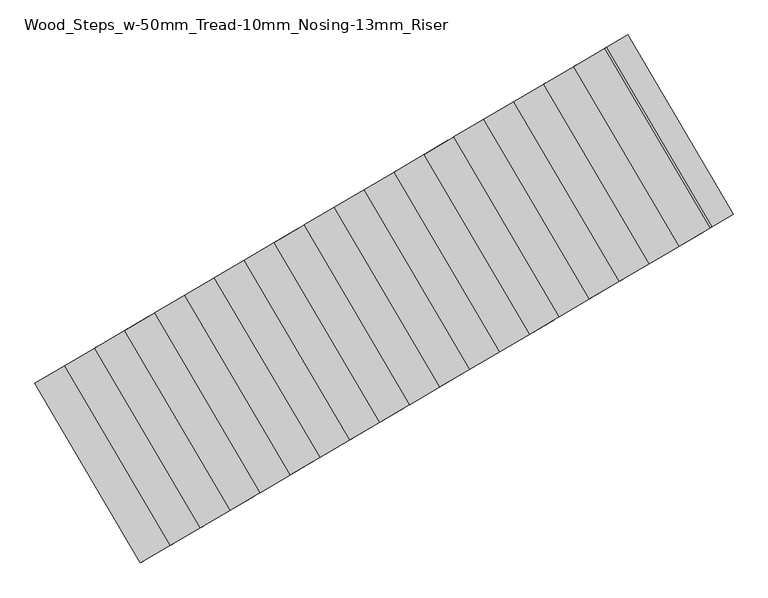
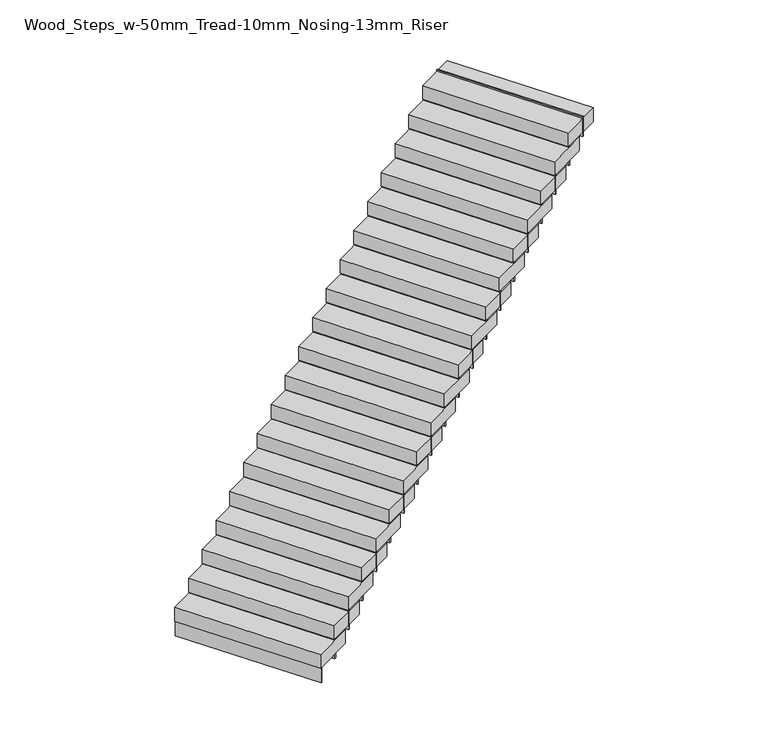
"""IFC4 building model written with IfcOpenShell, lengths in millimetres: stair flight geometry, Wood_Steps_w-50mm_Tread-10mm_Nosing-13mm_Riser."""

from ifc_helpers import new_model, si_unit, frame, origin, origin_with_axes, place, context, project, spatial, polyline, outline, extrude, source, transform, mapped, element, save


def wood_steps_w_50mm_tread_10mm_nosing_13mm_riser_9b9480e7(model_context):
    return source(origin(), model_context, "Body", "SweptSolid", [
        extrude(outline(polyline([(7063.7686647, 22146.0352069), (6675.819467, 21918.0101643), (5915.735992, 23211.1741566), (6303.6851897, 23439.1991991), (7063.7686647, 22146.0352069)])), frame((0.0, 0.0, 165.0), z_axis=(0.0, 0.0, 1.0), x_axis=(1.0, 0.0, 0.0)), (0.0, 0.0, 1.0), 150.0),
        extrude(outline(polyline([(6695.2169269, 21929.4114165), (6684.4405603, 21923.0773875), (5924.3570852, 23216.2413798), (5935.1334519, 23222.5754088), (6695.2169269, 21929.4114165)])), origin_with_axes(), (0.0, 0.0, 1.0), 165.0),
        extrude(outline(polyline([(6910.7442589, 22056.0919956), (6899.9678923, 22049.7579667), (6139.8844173, 23342.921959), (6150.6607839, 23349.2559879), (6910.7442589, 22056.0919956)])), frame((0.0, 0.0, 115.0), z_axis=(0.0, 0.0, 1.0), x_axis=(1.0, 0.0, 0.0)), (0.0, 0.0, 1.0), 215.0),
        extrude(outline(polyline([(7279.2959968, 22272.715786), (6891.3467991, 22044.6907435), (6131.263324, 23337.8547358), (6519.2125217, 23565.8797783), (7279.2959968, 22272.715786)])), frame((0.0, 0.0, 330.0), z_axis=(0.0, 0.0, 1.0), x_axis=(1.0, 0.0, 0.0)), (0.0, 0.0, 1.0), 150.0),
        extrude(outline(polyline([(7126.271591, 22182.7725748), (7115.4952244, 22176.4385459), (6355.4117493, 23469.6025381), (6366.1881159, 23475.9365671), (7126.271591, 22182.7725748)])), frame((0.0, 0.0, 280.0), z_axis=(0.0, 0.0, 1.0), x_axis=(1.0, 0.0, 0.0)), (0.0, 0.0, 1.0), 215.0),
        extrude(outline(polyline([(7494.8233288, 22399.3963652), (7106.8741311, 22171.3713227), (6346.7906561, 23464.535315), (6734.7398537, 23692.5603575), (7494.8233288, 22399.3963652)])), frame((0.0, 0.0, 495.0), z_axis=(0.0, 0.0, 1.0), x_axis=(1.0, 0.0, 0.0)), (0.0, 0.0, 1.0), 150.0),
        extrude(outline(polyline([(7341.798923, 22309.453154), (7331.0225564, 22303.119125), (6570.9390814, 23596.2831173), (6581.715448, 23602.6171463), (7341.798923, 22309.453154)])), frame((0.0, 0.0, 445.0), z_axis=(0.0, 0.0, 1.0), x_axis=(1.0, 0.0, 0.0)), (0.0, 0.0, 1.0), 215.0),
        extrude(outline(polyline([(7710.3506608, 22526.0769444), (7322.4014632, 22298.0519019), (6562.3179881, 23591.2158942), (6950.2671858, 23819.2409367), (7710.3506608, 22526.0769444)])), frame((0.0, 0.0, 660.0), z_axis=(0.0, 0.0, 1.0), x_axis=(1.0, 0.0, 0.0)), (0.0, 0.0, 1.0), 150.0),
        extrude(outline(polyline([(7557.3262551, 22436.1337332), (7546.5498885, 22429.7997042), (6786.4664134, 23722.9636965), (6797.24278, 23729.2977255), (7557.3262551, 22436.1337332)])), frame((0.0, 0.0, 610.0), z_axis=(0.0, 0.0, 1.0), x_axis=(1.0, 0.0, 0.0)), (0.0, 0.0, 1.0), 215.0),
        extrude(outline(polyline([(7925.8779929, 22652.7575236), (7537.9287952, 22424.732481), (6777.8453202, 23717.8964733), (7165.7945178, 23945.9215158), (7925.8779929, 22652.7575236)])), frame((0.0, 0.0, 825.0), z_axis=(0.0, 0.0, 1.0), x_axis=(1.0, 0.0, 0.0)), (0.0, 0.0, 1.0), 150.0),
        extrude(outline(polyline([(7772.8535871, 22562.8143123), (7762.0772205, 22556.4802834), (7001.9937455, 23849.6442757), (7012.7701121, 23855.9783046), (7772.8535871, 22562.8143123)])), frame((0.0, 0.0, 775.0), z_axis=(0.0, 0.0, 1.0), x_axis=(1.0, 0.0, 0.0)), (0.0, 0.0, 1.0), 215.0),
        extrude(outline(polyline([(8141.4053249, 22779.4381027), (7753.4561273, 22551.4130602), (6993.3726522, 23844.5770525), (7381.3218499, 24072.602095), (8141.4053249, 22779.4381027)])), frame((0.0, 0.0, 990.0), z_axis=(0.0, 0.0, 1.0), x_axis=(1.0, 0.0, 0.0)), (0.0, 0.0, 1.0), 150.0),
        extrude(outline(polyline([(7988.3809192, 22689.4948915), (7977.6045526, 22683.1608626), (7217.5210775, 23976.3248548), (7228.2974441, 23982.6588838), (7988.3809192, 22689.4948915)])), frame((0.0, 0.0, 940.0), z_axis=(0.0, 0.0, 1.0), x_axis=(1.0, 0.0, 0.0)), (0.0, 0.0, 1.0), 215.0),
        extrude(outline(polyline([(8356.932657, 22906.1186819), (7968.9834593, 22678.0936394), (7208.8999843, 23971.2576317), (7596.8491819, 24199.2826742), (8356.932657, 22906.1186819)])), frame((0.0, 0.0, 1155.0), z_axis=(0.0, 0.0, 1.0), x_axis=(1.0, 0.0, 0.0)), (0.0, 0.0, 1.0), 150.0),
        extrude(outline(polyline([(8203.9082512, 22816.1754707), (8193.1318846, 22809.8414417), (7433.0484096, 24103.005434), (7443.8247762, 24109.339463), (8203.9082512, 22816.1754707)])), frame((0.0, 0.0, 1105.0), z_axis=(0.0, 0.0, 1.0), x_axis=(1.0, 0.0, 0.0)), (0.0, 0.0, 1.0), 215.0),
        extrude(outline(polyline([(8572.459989, 23032.7992611), (8184.5107914, 22804.7742186), (7424.4273163, 24097.9382109), (7812.376514, 24325.9632534), (8572.459989, 23032.7992611)])), frame((0.0, 0.0, 1320.0), z_axis=(0.0, 0.0, 1.0), x_axis=(1.0, 0.0, 0.0)), (0.0, 0.0, 1.0), 150.0),
        extrude(outline(polyline([(8419.4355833, 22942.8560499), (8408.6592167, 22936.5220209), (7648.5757416, 24229.6860132), (7659.3521082, 24236.0200422), (8419.4355833, 22942.8560499)])), frame((0.0, 0.0, 1270.0), z_axis=(0.0, 0.0, 1.0), x_axis=(1.0, 0.0, 0.0)), (0.0, 0.0, 1.0), 215.0),
        extrude(outline(polyline([(8787.9873211, 23159.4798403), (8400.0381234, 22931.4547977), (7639.9546484, 24224.61879), (8027.903846, 24452.6438325), (8787.9873211, 23159.4798403)])), frame((0.0, 0.0, 1485.0), z_axis=(0.0, 0.0, 1.0), x_axis=(1.0, 0.0, 0.0)), (0.0, 0.0, 1.0), 150.0),
        extrude(outline(polyline([(8634.9629153, 23069.536629), (8624.1865487, 23063.2026001), (7864.1030737, 24356.3665924), (7874.8794403, 24362.7006213), (8634.9629153, 23069.536629)])), frame((0.0, 0.0, 1435.0), z_axis=(0.0, 0.0, 1.0), x_axis=(1.0, 0.0, 0.0)), (0.0, 0.0, 1.0), 215.0),
        extrude(outline(polyline([(9003.5146531, 23286.1604194), (8615.5654555, 23058.1353769), (7855.4819804, 24351.2993692), (8243.4311781, 24579.3244117), (9003.5146531, 23286.1604194)])), frame((0.0, 0.0, 1650.0), z_axis=(0.0, 0.0, 1.0), x_axis=(1.0, 0.0, 0.0)), (0.0, 0.0, 1.0), 150.0),
        extrude(outline(polyline([(8850.4902474, 23196.2172082), (8839.7138808, 23189.8831793), (8079.6304057, 24483.0471715), (8090.4067723, 24489.3812005), (8850.4902474, 23196.2172082)])), frame((0.0, 0.0, 1600.0), z_axis=(0.0, 0.0, 1.0), x_axis=(1.0, 0.0, 0.0)), (0.0, 0.0, 1.0), 215.0),
        extrude(outline(polyline([(9219.0419852, 23412.8409986), (8831.0927875, 23184.8159561), (8071.0093124, 24477.9799484), (8458.9585101, 24706.0049909), (9219.0419852, 23412.8409986)])), frame((0.0, 0.0, 1815.0), z_axis=(0.0, 0.0, 1.0), x_axis=(1.0, 0.0, 0.0)), (0.0, 0.0, 1.0), 150.0),
        extrude(outline(polyline([(9066.0175794, 23322.8977874), (9055.2412128, 23316.5637584), (8295.1577378, 24609.7277507), (8305.9341044, 24616.0617797), (9066.0175794, 23322.8977874)])), frame((0.0, 0.0, 1765.0), z_axis=(0.0, 0.0, 1.0), x_axis=(1.0, 0.0, 0.0)), (0.0, 0.0, 1.0), 215.0),
        extrude(outline(polyline([(9434.5693172, 23539.5215778), (9046.6201195, 23311.4965353), (8286.5366445, 24604.6605276), (8674.4858422, 24832.6855701), (9434.5693172, 23539.5215778)])), frame((0.0, 0.0, 1980.0), z_axis=(0.0, 0.0, 1.0), x_axis=(1.0, 0.0, 0.0)), (0.0, 0.0, 1.0), 150.0),
        extrude(outline(polyline([(9281.5449115, 23449.5783666), (9270.7685449, 23443.2443376), (8510.6850698, 24736.4083299), (8521.4614364, 24742.7423589), (9281.5449115, 23449.5783666)])), frame((0.0, 0.0, 1930.0), z_axis=(0.0, 0.0, 1.0), x_axis=(1.0, 0.0, 0.0)), (0.0, 0.0, 1.0), 215.0),
        extrude(outline(polyline([(9650.0966493, 23666.202157), (9262.1474516, 23438.1771144), (8502.0639765, 24731.3411067), (8890.0131742, 24959.3661492), (9650.0966493, 23666.202157)])), frame((0.0, 0.0, 2145.0), z_axis=(0.0, 0.0, 1.0), x_axis=(1.0, 0.0, 0.0)), (0.0, 0.0, 1.0), 150.0),
        extrude(outline(polyline([(9497.0722435, 23576.2589457), (9486.2958769, 23569.9249168), (8726.2124019, 24863.0889091), (8736.9887685, 24869.422938), (9497.0722435, 23576.2589457)])), frame((0.0, 0.0, 2095.0), z_axis=(0.0, 0.0, 1.0), x_axis=(1.0, 0.0, 0.0)), (0.0, 0.0, 1.0), 215.0),
        extrude(outline(polyline([(9865.6239813, 23792.8827361), (9477.6747836, 23564.8576936), (8717.5913086, 24858.0216859), (9105.5405063, 25086.0467284), (9865.6239813, 23792.8827361)])), frame((0.0, 0.0, 2310.0), z_axis=(0.0, 0.0, 1.0), x_axis=(1.0, 0.0, 0.0)), (0.0, 0.0, 1.0), 150.0),
        extrude(outline(polyline([(9712.5995756, 23702.9395249), (9701.823209, 23696.605496), (8941.7397339, 24989.7694882), (8952.5161005, 24996.1035172), (9712.5995756, 23702.9395249)])), frame((0.0, 0.0, 2260.0), z_axis=(0.0, 0.0, 1.0), x_axis=(1.0, 0.0, 0.0)), (0.0, 0.0, 1.0), 215.0),
        extrude(outline(polyline([(10081.1513134, 23919.5633153), (9693.2021157, 23691.5382728), (8933.1186406, 24984.7022651), (9321.0678383, 25212.7273076), (10081.1513134, 23919.5633153)])), frame((0.0, 0.0, 2475.0), z_axis=(0.0, 0.0, 1.0), x_axis=(1.0, 0.0, 0.0)), (0.0, 0.0, 1.0), 150.0),
        extrude(outline(polyline([(9928.1269076, 23829.6201041), (9917.350541, 23823.2860751), (9157.267066, 25116.4500674), (9168.0434326, 25122.7840964), (9928.1269076, 23829.6201041)])), frame((0.0, 0.0, 2425.0), z_axis=(0.0, 0.0, 1.0), x_axis=(1.0, 0.0, 0.0)), (0.0, 0.0, 1.0), 215.0),
        extrude(outline(polyline([(10296.6786454, 24046.2438945), (9908.7294477, 23818.218852), (9148.6459727, 25111.3828443), (9536.5951704, 25339.4078868), (10296.6786454, 24046.2438945)])), frame((0.0, 0.0, 2640.0), z_axis=(0.0, 0.0, 1.0), x_axis=(1.0, 0.0, 0.0)), (0.0, 0.0, 1.0), 150.0),
        extrude(outline(polyline([(10143.6542397, 23956.3006833), (10132.8778731, 23949.9666543), (9372.794398, 25243.1306466), (9383.5707646, 25249.4646756), (10143.6542397, 23956.3006833)])), frame((0.0, 0.0, 2590.0), z_axis=(0.0, 0.0, 1.0), x_axis=(1.0, 0.0, 0.0)), (0.0, 0.0, 1.0), 215.0),
        extrude(outline(polyline([(10512.2059775, 24172.9244737), (10124.2567798, 23944.8994311), (9364.1733047, 25238.0634234), (9752.1225024, 25466.0884659), (10512.2059775, 24172.9244737)])), frame((0.0, 0.0, 2805.0), z_axis=(0.0, 0.0, 1.0), x_axis=(1.0, 0.0, 0.0)), (0.0, 0.0, 1.0), 150.0),
        extrude(outline(polyline([(10359.1815717, 24082.9812624), (10348.4052051, 24076.6472335), (9588.3217301, 25369.8112258), (9599.0980967, 25376.1452547), (10359.1815717, 24082.9812624)])), frame((0.0, 0.0, 2755.0), z_axis=(0.0, 0.0, 1.0), x_axis=(1.0, 0.0, 0.0)), (0.0, 0.0, 1.0), 215.0),
        extrude(outline(polyline([(10727.7333095, 24299.6050528), (10339.7841118, 24071.5800103), (9579.7006368, 25364.7440026), (9967.6498345, 25592.7690451), (10727.7333095, 24299.6050528)])), frame((0.0, 0.0, 2970.0), z_axis=(0.0, 0.0, 1.0), x_axis=(1.0, 0.0, 0.0)), (0.0, 0.0, 1.0), 150.0),
        extrude(outline(polyline([(10574.7089038, 24209.6618416), (10563.9325372, 24203.3278127), (9803.8490621, 25496.4918049), (9814.6254287, 25502.8258339), (10574.7089038, 24209.6618416)])), frame((0.0, 0.0, 2920.0), z_axis=(0.0, 0.0, 1.0), x_axis=(1.0, 0.0, 0.0)), (0.0, 0.0, 1.0), 215.0),
        extrude(outline(polyline([(10790.2362358, 24336.3424208), (10779.4598692, 24330.0083918), (10019.3763942, 25623.1723841), (10030.1527608, 25629.5064131), (10790.2362358, 24336.3424208)])), frame((0.0, 0.0, 3085.0), z_axis=(0.0, 0.0, 1.0), x_axis=(1.0, 0.0, 0.0)), (0.0, 0.0, 1.0), 215.0),
        extrude(outline(polyline([(10943.2606416, 24426.285632), (10555.3114439, 24198.2605895), (9795.2279688, 25491.4245818), (10183.1771665, 25719.4496243), (10943.2606416, 24426.285632)])), frame((0.0, 0.0, 3135.0), z_axis=(0.0, 0.0, 1.0), x_axis=(1.0, 0.0, 0.0)), (0.0, 0.0, 1.0), 150.0),
    ])


if __name__ == "__main__":
    model = new_model("IFC4")
    model_context = context("Model", 3, world=origin())
    ifc_project = project(units=[si_unit("LENGTHUNIT", "METRE", prefix="MILLI")], contexts=[model_context])
    site = spatial("IfcSite", under=ifc_project)
    building = spatial("IfcBuilding", under=site)
    placement = place(None, origin())
    wood_steps_w_50mm_tread_10mm_nosing_13mm_riser_shape = wood_steps_w_50mm_tread_10mm_nosing_13mm_riser_9b9480e7(model_context)
    element("IfcStairFlight", 1, ObjectType="Wood_Steps_w-50mm_Tread-10mm_Nosing-13mm_Riser", at=placement, inside=building, context=model_context, shape_type="MappedRepresentation", body=[
        mapped(wood_steps_w_50mm_tread_10mm_nosing_13mm_riser_shape, transform((0.0, 0.0, 0.0), x_axis=(1.0, 0.0, 0.0), y_axis=(0.0, 1.0, 0.0), z_axis=(0.0, 0.0, 1.0))),
    ])
    save(model, "model.ifc")
